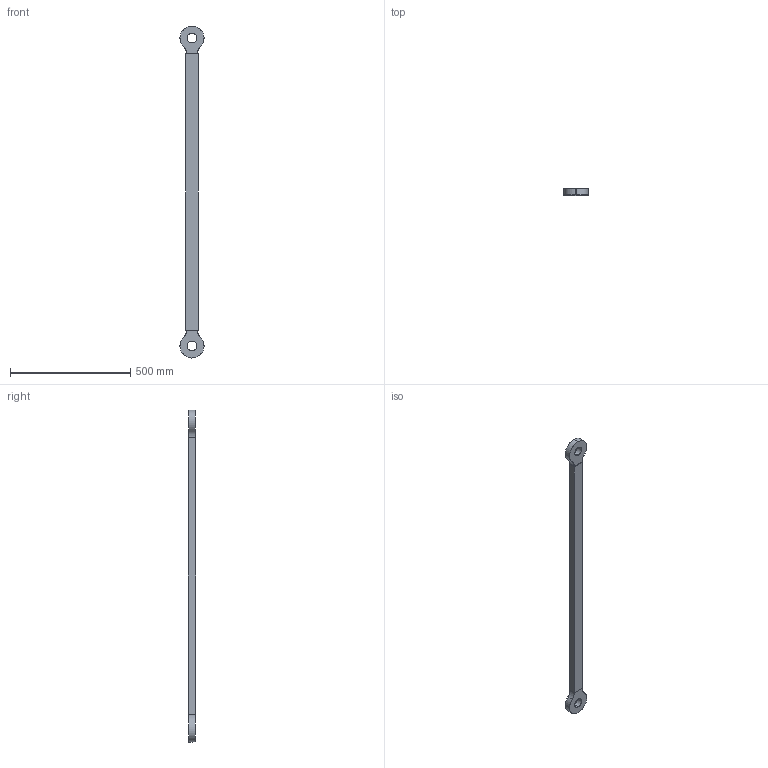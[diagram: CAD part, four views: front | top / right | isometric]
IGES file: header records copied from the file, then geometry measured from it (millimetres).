
Start section: SolidWorks IGES file using analytic representation for surfaces
Global section: file name: C:\Data\Lättmodeller\Nytt\660\IRB660_180-315_IRC5_rev03\IRB660_180-315_IRC5_rev03_IRC5_IGES_j\IRB660_180-315_LINK_V_CAD_rev02.IGS; native system: SolidWorks 2014; preprocessor: SolidWorks 2014; author: seadbov; date: 161202.130153; units: millimetre
Bounding box: 99.88 x 30 x 1380 mm (x, y, z)
Surface area: 235943.8 mm2 (no closed solid volume)
Topology: 0 solids, 0 shells, 25 faces, 424 edges, 424 vertices
Faces by surface type: bspline 14, revolution 11
